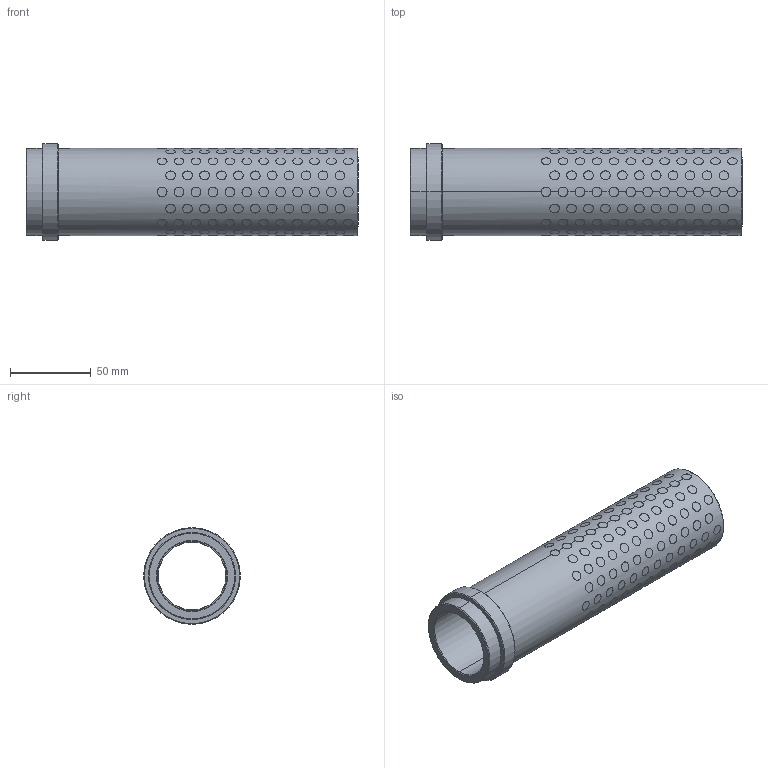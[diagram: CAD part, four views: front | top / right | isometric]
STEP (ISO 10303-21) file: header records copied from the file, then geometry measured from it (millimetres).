
FILE_DESCRIPTION((''),'2;1');
FILE_NAME('G31242196','2017-12-31T',('MANU'),(''),'PRO/ENGINEER BY PARAMETRIC TECHNOLOGY CORPORATION, 2012130','PRO/ENGINEER BY PARAMETRIC TECHNOLOGY CORPORATION, 2012130','');
FILE_SCHEMA(('CONFIG_CONTROL_DESIGN'));
Products named in the file (1): G31242196
Bounding box: 206 x 60 x 60 mm (x, y, z)
Volume: 185906.5 mm3; surface area: 106594.6 mm2
Topology: 185 solids, 185 shells, 1131 faces, 2406 edges, 1600 vertices
Faces by surface type: cylinder 1114, cone 12, plane 5
Entity records: 61196 total; most frequent: CARTESIAN_POINT 39283, ORIENTED_EDGE 4812, DIRECTION 3132, EDGE_CURVE 2406, VERTEX_POINT 1600, B_SPLINE_CURVE_WITH_KNOTS 1568, EDGE_LOOP 1456, AXIS2_PLACEMENT_3D 1163
